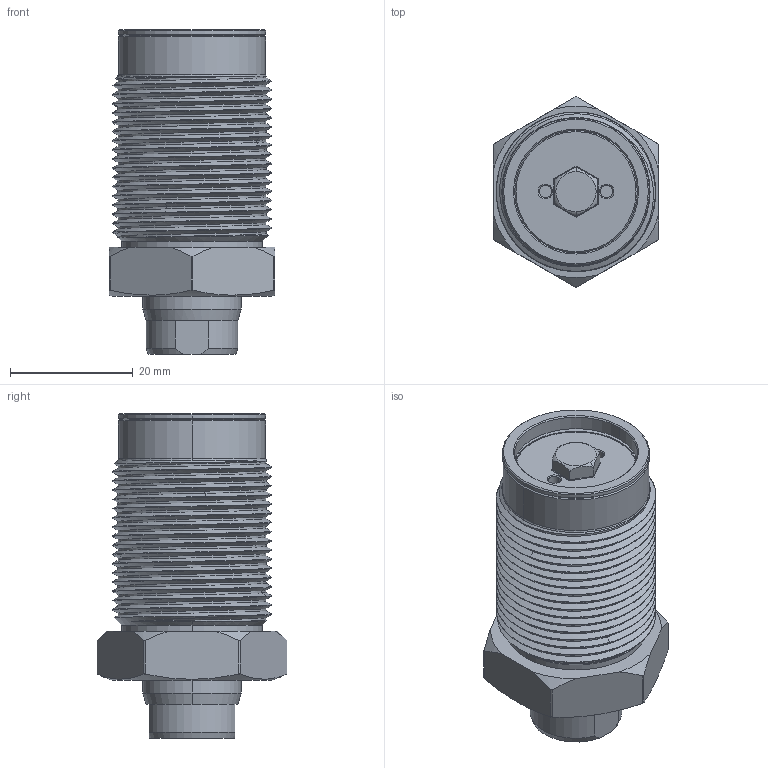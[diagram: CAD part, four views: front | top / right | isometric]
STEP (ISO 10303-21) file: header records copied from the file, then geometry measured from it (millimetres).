
FILE_DESCRIPTION((''),'2;1');
FILE_NAME('SIMP_PUSH_CYLINDER__ASM','2023-04-17T09:40:08',('Design 2'),(''),'CREO PARAMETRIC BY PTC INC, 2020053','CREO PARAMETRIC BY PTC INC, 2020053','');
FILE_SCHEMA(('CONFIG_CONTROL_DESIGN'));
Length unit declared in the file: millimetre
Products named in the file (6): THREADED_BODY_; ROD___; WASHER___; PISTON_____ASM; COPPER_WASHER__; SIMP_PUSH_CYLINDER__ASM
Assembly tree (5 placements, depth 3):
  SIMP_PUSH_CYLINDER__ASM
    THREADED_BODY_
    PISTON_____ASM
      ROD___
      WASHER___
    COPPER_WASHER__
Bounding box: 27 x 31 x 53 mm (x, y, z)
Volume: 21910 mm3; surface area: 12561.3 mm2
Topology: 4 solids, 4 shells, 197 faces, 487 edges, 306 vertices
Faces by surface type: cylinder 89, cone 43, plane 33, bspline 28, torus 4
Entity records: 14802 total; most frequent: CARTESIAN_POINT 10303, ORIENTED_EDGE 974, DIRECTION 810, EDGE_CURVE 487, AXIS2_PLACEMENT_3D 320, VERTEX_POINT 306, EDGE_LOOP 213, FACE_OUTER_BOUND 197
